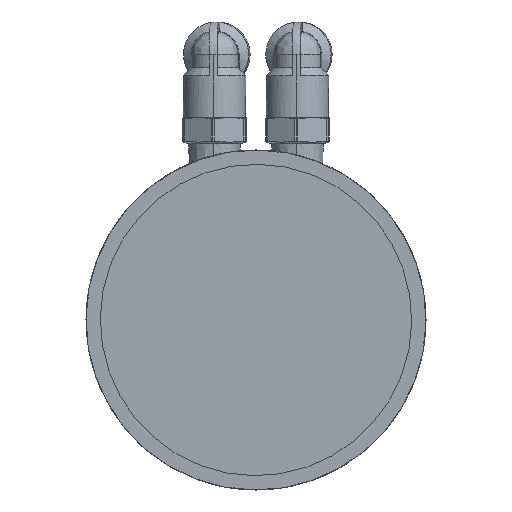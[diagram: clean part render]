
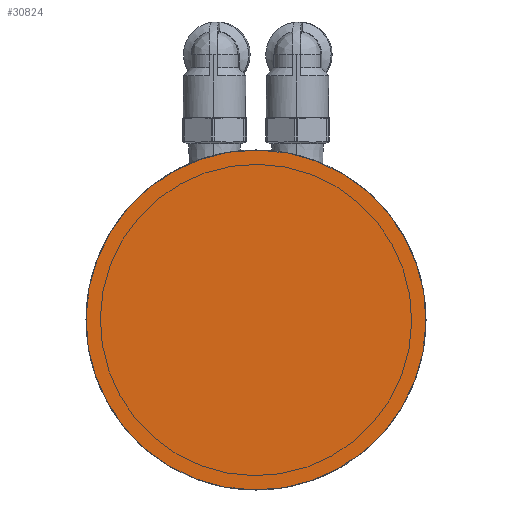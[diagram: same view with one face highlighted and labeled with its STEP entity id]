
A CAD part, front view. The second image highlights one B-rep face of the part: STEP entity #30824.
In plain terms, the highlighted planar face has unit normal (0, -1, 0).
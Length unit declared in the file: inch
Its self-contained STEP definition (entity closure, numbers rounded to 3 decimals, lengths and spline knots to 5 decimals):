
#457 = CARTESIAN_POINT ( 'NONE',  ( -1.11837, -4.376, -0.62261 ) ) ;
#2156 = DIRECTION ( 'NONE',  ( 0.874, 0., 0.486 ) ) ;
#2826 = CARTESIAN_POINT ( 'NONE',  ( 0., -4.376, 0. ) ) ;
#9028 = DIRECTION ( 'NONE',  ( 0.874, 0., 0.486 ) ) ;
#13342 = VERTEX_POINT ( 'NONE', #457 ) ;
#14454 = CIRCLE ( 'NONE', #47328, 1.28 ) ;
#19417 = DIRECTION ( 'NONE',  ( 0., 1., 0. ) ) ;
#24712 = VERTEX_POINT ( 'NONE', #36020 ) ;
#25996 = DIRECTION ( 'NONE',  ( 0., 1., 0. ) ) ;
#29705 = AXIS2_PLACEMENT_3D ( 'NONE', #2826, #19417, #49220 ) ;
#30824 = ADVANCED_FACE ( 'Defeatured_0_192', ( #49808 ), #53183, .F. ) ;
#35912 = CIRCLE ( 'NONE', #29705, 1.28 ) ;
#36020 = CARTESIAN_POINT ( 'NONE',  ( 1.11837, -4.376, 0.62261 ) ) ;
#39213 = AXIS2_PLACEMENT_3D ( 'NONE', #44595, #52992, #2156 ) ;
#44595 = CARTESIAN_POINT ( 'NONE',  ( 0., -4.376, 0. ) ) ;
#44634 = EDGE_CURVE ( 'Defeatured_0_193+Defeatured_0_192+Defeatured_0_192+Defeatured_0_192', #13342, #24712, #35912, .T. ) ;
#47205 = EDGE_CURVE ( 'Defeatured_0_193+Defeatured_0_192+Defeatured_0_192+Defeatured_0_192', #24712, #13342, #14454, .T. ) ;
#47328 = AXIS2_PLACEMENT_3D ( 'NONE', #51533, #25996, #9028 ) ;
#49220 = DIRECTION ( 'NONE',  ( 0.874, 0., 0.486 ) ) ;
#49808 = FACE_OUTER_BOUND ( 'NONE', #52641, .T. ) ;
#51116 = ORIENTED_EDGE ( 'NONE', *, *, #47205, .F. ) ;
#51533 = CARTESIAN_POINT ( 'NONE',  ( 0., -4.376, 0. ) ) ;
#52184 = ORIENTED_EDGE ( 'NONE', *, *, #44634, .F. ) ;
#52641 = EDGE_LOOP ( 'NONE', ( #52184, #51116 ) ) ;
#52992 = DIRECTION ( 'NONE',  ( 0., 1., 0. ) ) ;
#53183 = PLANE ( 'NONE',  #39213 ) ;
